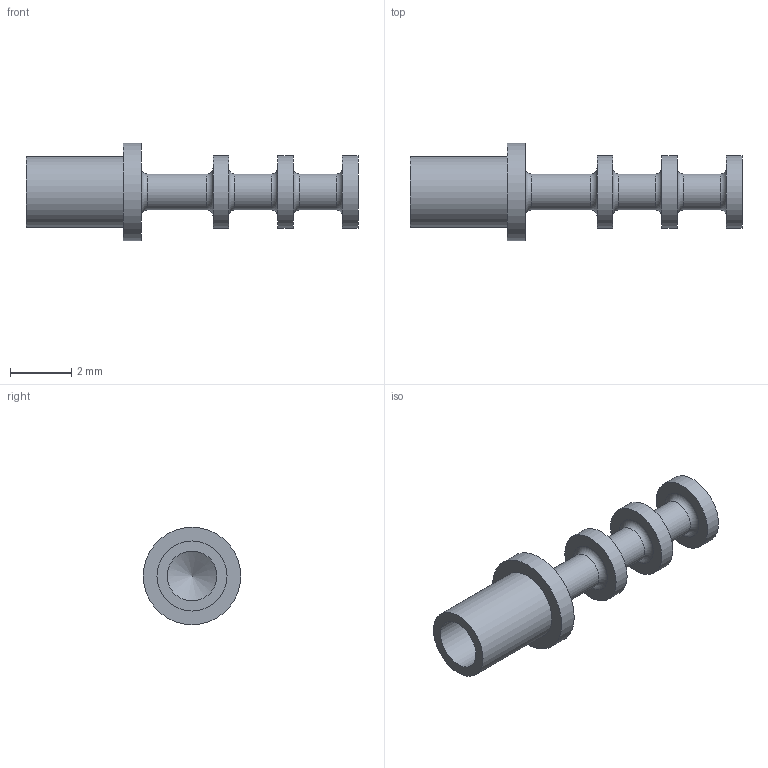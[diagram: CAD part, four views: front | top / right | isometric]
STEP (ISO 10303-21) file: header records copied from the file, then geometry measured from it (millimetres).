
FILE_DESCRIPTION(/* description */ (''),/* implementation_level */ '2;1');
FILE_NAME(/* name */ 'Z:\STEP folder\160-2080-03.ipt.stp',/* time_stamp */ '2016-12-07T10:50:54+00:00',/* author */ ('Paul Karlsons'),/* organization */ (''),/* preprocessor_version */ 'ST-DEVELOPER v15.2',/* originating_system */ 'Autodesk Inventor 2014',/* authorisation */ '');
FILE_SCHEMA (('AUTOMOTIVE_DESIGN { 1 0 10303 214 3 1 1 }'));
Length unit declared in the file: millimetre
Products named in the file (1): 160-2080-03
Bounding box: 10.82 x 3.17 x 3.17 mm (x, y, z)
Volume: 26.9 mm3; surface area: 102.6 mm2
Topology: 1 solids, 1 shells, 25 faces, 41 edges, 25 vertices
Faces by surface type: cylinder 9, plane 9, torus 6, cone 1
Full cylindrical faces by diameter (mm): 1.168 x3, 1.626 x1, 2.286 x1, 2.362 x3, 3.175 x1
Entity records: 515 total; most frequent: DIRECTION 100, CARTESIAN_POINT 74, AXIS2_PLACEMENT_3D 50, EDGE_LOOP 48, ORIENTED_EDGE 48, FACE_BOUND 27, ADVANCED_FACE 25, CIRCLE 24
